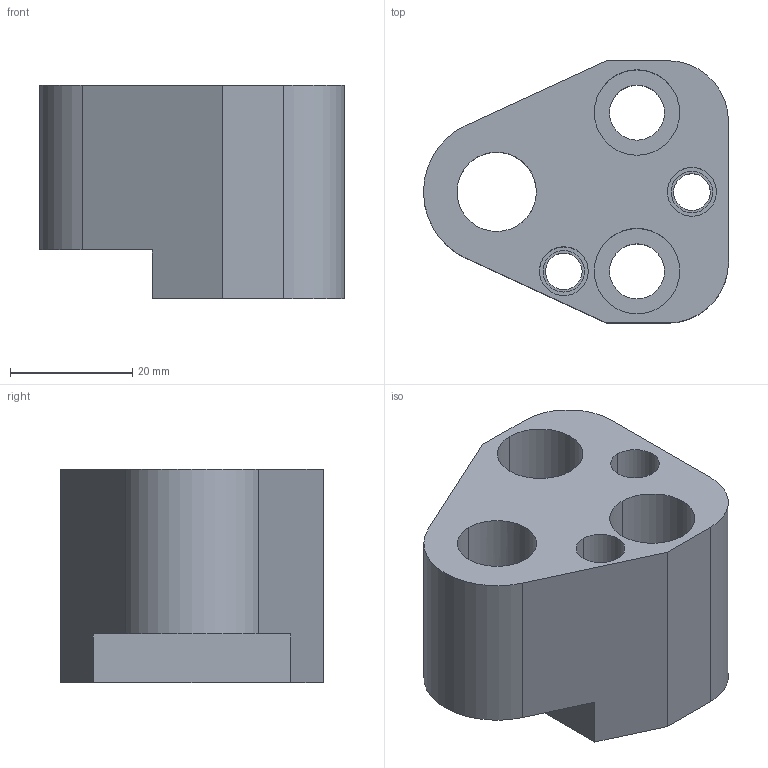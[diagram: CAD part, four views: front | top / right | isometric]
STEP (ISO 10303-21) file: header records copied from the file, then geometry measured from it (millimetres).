
FILE_DESCRIPTION(/* description */ (''),/* implementation_level */ '2;1');
FILE_NAME(/* name */ '3d_hap-fn13_04011_r00.stp',/* time_stamp */ '2011-01-10T14:14:58+09:00',/* author */ ('MISUMI'),/* organization */ (''),/* preprocessor_version */ 'ST-DEVELOPER v11',/* originating_system */ 'UGS - NX 5.0',/* authorisation */ '');
FILE_SCHEMA (('CONFIG_CONTROL_DESIGN'));
Length unit declared in the file: millimetre
Products named in the file (1): 3d_hap-fn13_04011_r00
Bounding box: 50 x 43 x 35 mm (x, y, z)
Volume: 41426.2 mm3; surface area: 13005.9 mm2
Topology: 1 solids, 1 shells, 42 faces, 104 edges, 69 vertices
Faces by surface type: cylinder 25, plane 15, cone 2
Entity records: 1382 total; most frequent: DIRECTION 242, CARTESIAN_POINT 221, ORIENTED_EDGE 208, EDGE_CURVE 104, AXIS2_PLACEMENT_3D 96, VERTEX_POINT 69, EDGE_LOOP 57, CIRCLE 53
